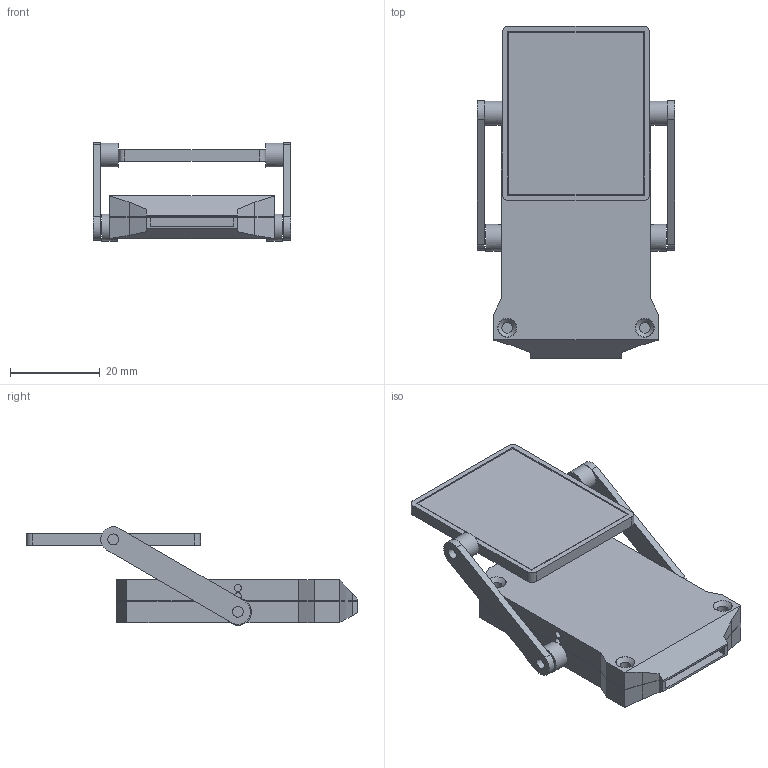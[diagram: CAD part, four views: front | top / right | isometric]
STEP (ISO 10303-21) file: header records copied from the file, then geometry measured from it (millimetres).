
FILE_DESCRIPTION(('Open CASCADE Model'),'2;1');
FILE_NAME('Open CASCADE Shape Model','2026-09-30T23:04:27',('Author'),( 'Open CASCADE'),'Open CASCADE STEP processor 8.0','Open CASCADE 8.0' ,'Unknown');
FILE_SCHEMA(('AP242_MANAGED_MODEL_BASED_3D_ENGINEERING_MIM_LF {1 0 10303 442 1 1 4 }' ));
Length unit declared in the file: millimetre
Products named in the file (7): MSV4 Arm Solar Base; MSV4 Arm Solar Lid; MSV4 Case Gasket; MSV4 Solar Arm Left; MSV4 Solar Arm Right; MSV4 36 x 30 Solar Panel Frame; 36 x 30 mm Solar Panel Reference - Do Not Print
Bounding box: 44 x 73.8 x 21.9 mm (x, y, z)
Volume: 11644.6 mm3; surface area: 18076.5 mm2
Topology: 7 solids, 7 shells, 245 faces, 589 edges, 384 vertices
Faces by surface type: plane 193, cylinder 44, extrusion 4, cone 4
Full cylindrical faces by diameter (mm): 1.6 x4, 2.4 x12, 2.9 x8, 3.3 x4, 4.2 x4, 5.4 x2, 6 x2
Entity records: 15658 total; most frequent: CARTESIAN_POINT 3620, DIRECTION 2145, VECTOR 1341, LINE 1337, ORIENTED_EDGE 1178, PCURVE 1178, DEFINITIONAL_REPRESENTATION 1178, EDGE_CURVE 589
